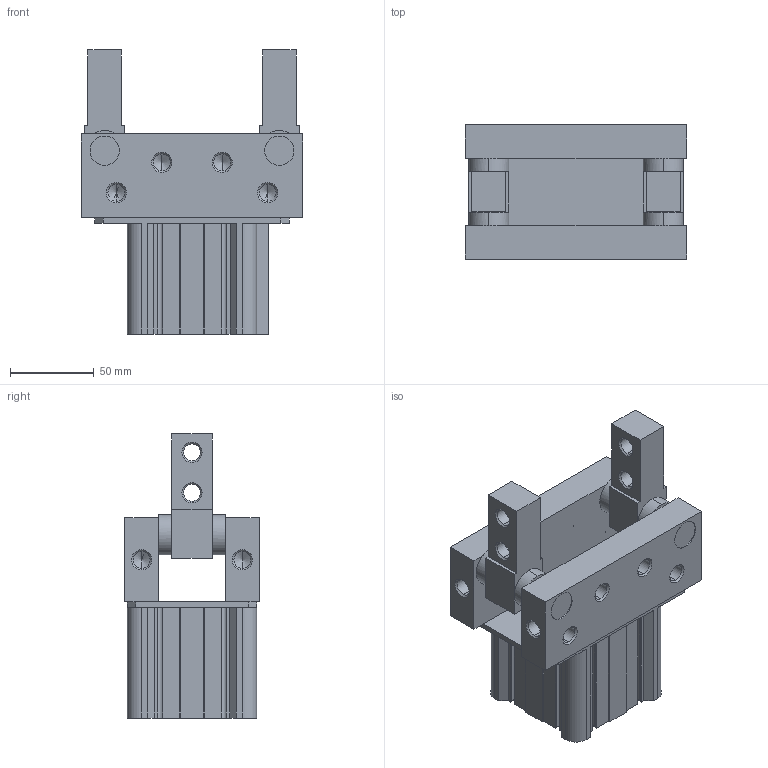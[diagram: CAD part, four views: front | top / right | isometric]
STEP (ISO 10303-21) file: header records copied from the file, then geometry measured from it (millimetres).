
FILE_DESCRIPTION (( 'STEP AP203' ), '1' );
FILE_NAME ('CHT2-63D.STEP', '2020-03-03T19:29:39', ( '' ), ( '' ), 'SwSTEP 2.0', 'SolidWorks 2019', '' );
FILE_SCHEMA (( 'CONFIG_CONTROL_DESIGN' ));
Length unit declared in the file: millimetre
Products named in the file (1): CHT2-63D
Bounding box: 132 x 80 x 169.2 mm (x, y, z)
Volume: 698689.8 mm3; surface area: 109746.1 mm2
Topology: 3 solids, 3 shells, 292 faces, 746 edges, 446 vertices
Faces by surface type: plane 114, cylinder 90, cone 88
Entity records: 8603 total; most frequent: DIRECTION 1536, CARTESIAN_POINT 1449, ORIENTED_EDGE 1420, EDGE_CURVE 710, AXIS2_PLACEMENT_3D 533, LINE 470, VECTOR 470, VERTEX_POINT 446
